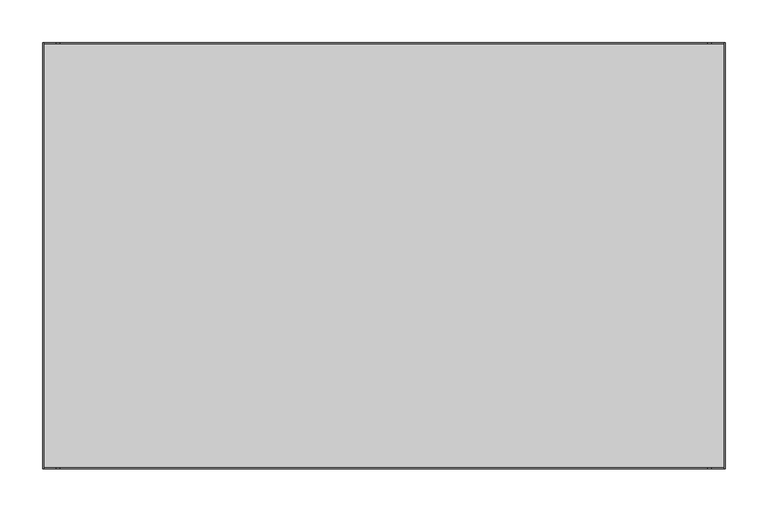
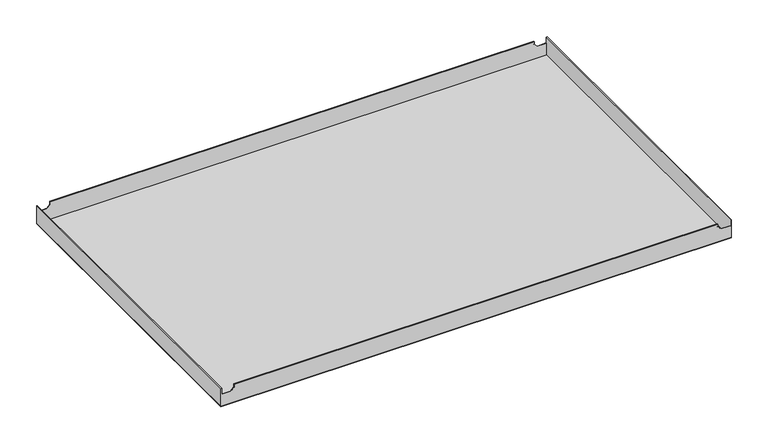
"""IFC4 building model written with IfcOpenShell, lengths in millimetres: proxy geometry, durlum_S1_RHOMBOS_panel : durlum_S1_RHOMBOS_panel_wall_corner."""

from ifc_helpers import new_model, si_unit, origin, origin_with_axes, place, context, project, spatial, polyline, outline, extrude, faceted_brep, source, transform, mapped, element, save


def generic_models_a2e92584(model_context):
    return source(origin(), model_context, "Body", "SolidModel", [
        faceted_brep([(-400.0, 250.0, 30.0), (-400.0, -250.0, 30.0), (-399.0, -250.0, 30.0), (-399.0, 250.0, 30.0), (400.0, -250.0, 30.0), (400.0, 250.0, 30.0), (399.0, 250.0, 30.0), (399.0, -250.0, 30.0), (-379.4, 250.0, 30.0), (-379.4, 249.0, 30.0), (379.0, 249.0, 30.0), (379.0, 250.0, 30.0), (-379.4, -249.0, 30.0), (-379.4, -250.0, 30.0), (379.0, -250.0, 30.0), (379.0, -249.0, 30.0), (400.0, 250.0, 1.0), (400.0, -250.0, 1.0), (-400.0, -250.0, 1.0), (-400.0, 250.0, 1.0), (399.0, 249.0, 1.0), (-399.0, 249.0, 1.0), (-399.0, -249.0, 1.0), (399.0, -249.0, 1.0), (-399.0, 250.0, 20.1669893), (-384.6658218, 250.0, 20.1669893), (-379.4, 250.0, 25.4328111), (379.0, 250.0, 25.4469988), (384.2800094, 250.0, 20.1669893), (399.0, 250.0, 20.1669893), (399.0, -250.0, 20.1669893), (384.2800094, -250.0, 20.1669893), (379.0, -250.0, 25.4469988), (-379.4, -250.0, 25.4328111), (-384.6658218, -250.0, 20.1669893), (-399.0, -250.0, 20.1669893), (399.0, 249.0, 20.1669893), (399.0, -249.0, 20.1669893), (-399.0, -249.0, 20.1669893), (-384.6658218, -249.0, 20.1669893), (-379.4, -249.0, 25.4328111), (379.0, -249.0, 25.4469988), (384.2800094, -249.0, 20.1669893), (-399.0, 249.0, 20.1669893), (384.2800094, 249.0, 20.1669893), (379.0, 249.0, 25.4469988), (-379.4, 249.0, 25.4328111), (-384.6658218, 249.0, 20.1669893)], [[[0, 1, 2, 3]], [[4, 5, 6, 7]], [[8, 9, 10, 11]], [[12, 13, 14, 15]], [[16, 17, 18, 19], [20, 21, 22, 23]], [[16, 19, 0, 3, 24, 25, 26, 8, 11, 27, 28, 29, 6, 5]], [[1, 0, 19, 18]], [[18, 17, 4, 7, 30, 31, 32, 14, 13, 33, 34, 35, 2, 1]], [[5, 4, 17, 16]], [[6, 29, 36, 20, 23, 37, 30, 7]], [[23, 22, 38, 39, 40, 12, 15, 41, 42, 37]], [[22, 21, 43, 24, 3, 2, 35, 38]], [[21, 20, 36, 44, 45, 10, 9, 46, 47, 43]], [[38, 35, 34, 39]], [[24, 43, 47, 25]], [[39, 34, 33, 40]], [[25, 47, 46, 26]], [[40, 33, 13, 12]], [[26, 46, 9, 8]], [[36, 29, 28, 44]], [[30, 37, 42, 31]], [[44, 28, 27, 45]], [[31, 42, 41, 32]], [[32, 41, 15, 14]], [[45, 27, 11, 10]]]),
        extrude(outline(polyline([(400.0, 250.0), (400.0, -250.0), (-400.0, -250.0), (-400.0, 250.0), (400.0, 250.0)])), origin_with_axes(), (0.0, 0.0, 1.0), 1.0),
    ])


if __name__ == "__main__":
    model = new_model("IFC4")
    model_context = context("Model", 3, world=origin())
    ifc_project = project(units=[si_unit("LENGTHUNIT", "METRE", prefix="MILLI")], contexts=[model_context])
    site = spatial("IfcSite", under=ifc_project)
    building = spatial("IfcBuilding", under=site)
    placement = place(None, origin())
    generic_models_shape = generic_models_a2e92584(model_context)
    element("IfcBuildingElementProxy", 1, Name="durlum_S1_RHOMBOS_panel : durlum_S1_RHOMBOS_panel_wall_corner", ObjectType="durlum_S1_RHOMBOS_panel : durlum_S1_RHOMBOS_panel_wall_corner", at=placement, inside=building, context=model_context, shape_type="MappedRepresentation", body=[
        mapped(generic_models_shape, transform((0.0, 0.0, 0.0), x_axis=(1.0, 0.0, 0.0), y_axis=(0.0, 1.0, 0.0), z_axis=(0.0, 0.0, 1.0))),
    ])
    save(model, "model.ifc")
